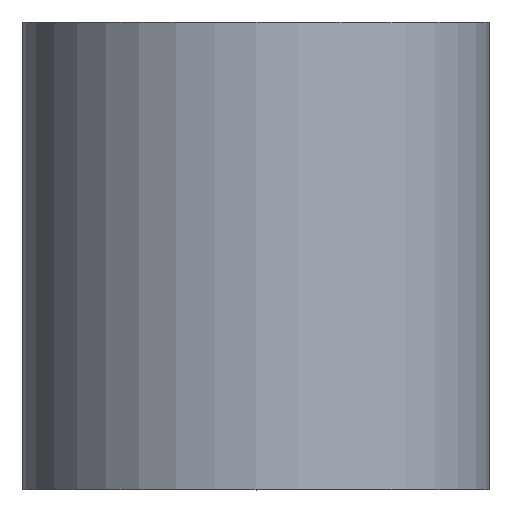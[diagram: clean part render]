
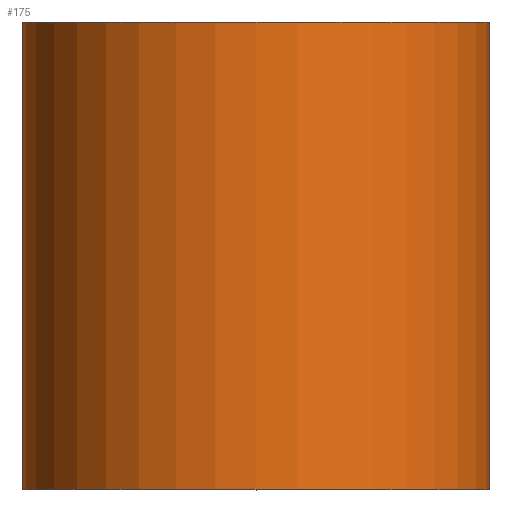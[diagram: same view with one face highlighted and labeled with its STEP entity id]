
A CAD part, top view. The second image highlights one B-rep face of the part: STEP entity #175.
In plain terms, the highlighted cylindrical face has radius 5 mm (diameter 10 mm), a partial arc.
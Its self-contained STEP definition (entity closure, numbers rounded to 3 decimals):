
#3 = ORIENTED_EDGE ( 'NONE', *, *, #128, .T. ) ;
#5 = LINE ( 'NONE', #33, #158 ) ;
#12 = VERTEX_POINT ( 'NONE', #31 ) ;
#13 = DIRECTION ( 'NONE',  ( 0., 1., 0. ) ) ;
#19 = CARTESIAN_POINT ( 'NONE',  ( 0., 0., 0. ) ) ;
#31 = CARTESIAN_POINT ( 'NONE',  ( 5., 0., 0. ) ) ;
#33 = CARTESIAN_POINT ( 'NONE',  ( 5., 0., 0. ) ) ;
#35 = CARTESIAN_POINT ( 'NONE',  ( -5., 0., 0. ) ) ;
#57 = CARTESIAN_POINT ( 'NONE',  ( 5., 10., 0. ) ) ;
#66 = DIRECTION ( 'NONE',  ( -1., 0., 0. ) ) ;
#74 = VERTEX_POINT ( 'NONE', #57 ) ;
#96 = CYLINDRICAL_SURFACE ( 'NONE', #141, 5. ) ;
#98 = AXIS2_PLACEMENT_3D ( 'NONE', #19, #13, #184 ) ;
#101 = EDGE_CURVE ( 'NONE', #113, #250, #268, .T. ) ;
#113 = VERTEX_POINT ( 'NONE', #35 ) ;
#118 = DIRECTION ( 'NONE',  ( 0., 1., 0. ) ) ;
#128 = EDGE_CURVE ( 'NONE', #12, #74, #5, .T. ) ;
#130 = ORIENTED_EDGE ( 'NONE', *, *, #259, .T. ) ;
#136 = CARTESIAN_POINT ( 'NONE',  ( 0., 10., 0. ) ) ;
#137 = CIRCLE ( 'NONE', #247, 5. ) ;
#141 = AXIS2_PLACEMENT_3D ( 'NONE', #246, #118, #66 ) ;
#152 = CIRCLE ( 'NONE', #98, 5. ) ;
#158 = VECTOR ( 'NONE', #223, 1000. ) ;
#160 = CARTESIAN_POINT ( 'NONE',  ( -5., 10., 0. ) ) ;
#171 = ORIENTED_EDGE ( 'NONE', *, *, #101, .F. ) ;
#175 = ADVANCED_FACE ( 'NONE', ( #225 ), #96, .T. ) ;
#184 = DIRECTION ( 'NONE',  ( -1., 0., 0. ) ) ;
#189 = DIRECTION ( 'NONE',  ( 0., 1., 0. ) ) ;
#199 = ORIENTED_EDGE ( 'NONE', *, *, #254, .F. ) ;
#218 = VECTOR ( 'NONE', #222, 1000. ) ;
#222 = DIRECTION ( 'NONE',  ( 0., 1., 0. ) ) ;
#223 = DIRECTION ( 'NONE',  ( 0., 1., 0. ) ) ;
#225 = FACE_OUTER_BOUND ( 'NONE', #290, .T. ) ;
#232 = DIRECTION ( 'NONE',  ( -1., 0., 0. ) ) ;
#246 = CARTESIAN_POINT ( 'NONE',  ( 0., 0., 0. ) ) ;
#247 = AXIS2_PLACEMENT_3D ( 'NONE', #136, #189, #232 ) ;
#250 = VERTEX_POINT ( 'NONE', #160 ) ;
#254 = EDGE_CURVE ( 'NONE', #250, #74, #137, .T. ) ;
#259 = EDGE_CURVE ( 'NONE', #113, #12, #152, .T. ) ;
#268 = LINE ( 'NONE', #269, #218 ) ;
#269 = CARTESIAN_POINT ( 'NONE',  ( -5., 0., 0. ) ) ;
#290 = EDGE_LOOP ( 'NONE', ( #130, #3, #199, #171 ) ) ;
